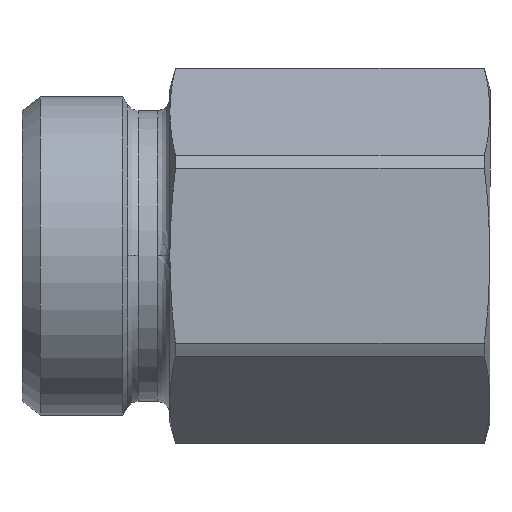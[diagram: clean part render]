
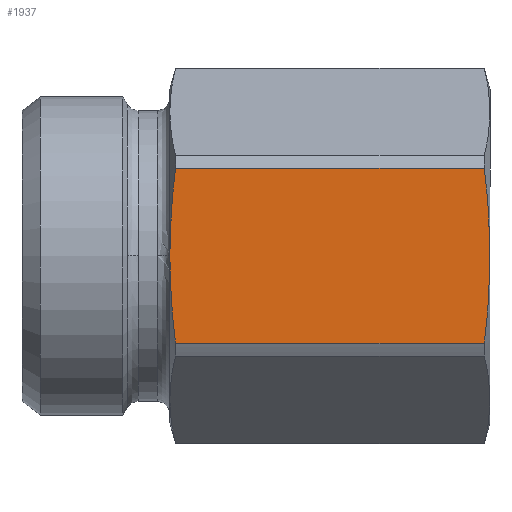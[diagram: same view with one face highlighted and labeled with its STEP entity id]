
A CAD part, top view. The second image highlights one B-rep face of the part: STEP entity #1937.
In plain terms, the highlighted planar face has unit normal (0, 0, 1) as drawn and (1, 0, 0) by its records, which use the part's own axes.
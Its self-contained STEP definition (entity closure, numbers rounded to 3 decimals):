
#1250=CARTESIAN_POINT('',(13.5,0.0,13.0));
#1251=VERTEX_POINT('',#1250);
#1315=CARTESIAN_POINT('',(13.5,-7.093,12.531));
#1316=VERTEX_POINT('',#1315);
#1334=CARTESIAN_POINT('',(13.5,-7.093,-12.531));
#1335=VERTEX_POINT('',#1334);
#1343=CARTESIAN_POINT('',(13.5,-7.093,-12.531));
#1344=DIRECTION('',(0.0,0.0,1.0));
#1345=VECTOR('',#1344,25.062);
#1346=LINE('',#1343,#1345);
#1347=EDGE_CURVE('',#1335,#1316,#1346,.T.);
#1359=CARTESIAN_POINT('',(13.5,7.093,12.531));
#1360=VERTEX_POINT('',#1359);
#1368=CARTESIAN_POINT('',(13.5,7.093,-12.531));
#1369=VERTEX_POINT('',#1368);
#1370=CARTESIAN_POINT('',(13.5,7.093,12.531));
#1371=DIRECTION('',(0.0,0.0,-1.0));
#1372=VECTOR('',#1371,25.062);
#1373=LINE('',#1370,#1372);
#1374=EDGE_CURVE('',#1360,#1369,#1373,.T.);
#1870=CARTESIAN_POINT('',(13.5,7.093,12.531));
#1871=CARTESIAN_POINT('',(13.5,3.331,13.0));
#1872=CARTESIAN_POINT('',(13.5,0.0,13.0));
#1880=(BOUNDED_CURVE()B_SPLINE_CURVE(2,(#1870,#1871,#1872),.UNSPECIFIED.,.F.,.U.)B_SPLINE_CURVE_WITH_KNOTS((3,3),(5.564,13.321),.UNSPECIFIED.)CURVE()GEOMETRIC_REPRESENTATION_ITEM()RATIONAL_B_SPLINE_CURVE((1.046,1.056,1.0))REPRESENTATION_ITEM(''));
#1881=EDGE_CURVE('',#1360,#1251,#1880,.T.);
#1886=CARTESIAN_POINT('',(13.5,-7.794,0.0));
#1887=DIRECTION('',(1.0,0.0,0.0));
#1888=DIRECTION('',(0.0,0.0,-1.0));
#1889=AXIS2_PLACEMENT_3D('',#1886,#1887,#1888);
#1890=PLANE('',#1889);
#1891=ORIENTED_EDGE('',*,*,#1374,.F.);
#1892=ORIENTED_EDGE('',*,*,#1881,.T.);
#1893=CARTESIAN_POINT('',(13.5,0.0,13.0));
#1894=CARTESIAN_POINT('',(13.5,-3.331,13.0));
#1895=CARTESIAN_POINT('',(13.5,-7.093,12.531));
#1903=(BOUNDED_CURVE()B_SPLINE_CURVE(2,(#1893,#1894,#1895),.UNSPECIFIED.,.F.,.U.)B_SPLINE_CURVE_WITH_KNOTS((3,3),(13.321,21.078),.UNSPECIFIED.)CURVE()GEOMETRIC_REPRESENTATION_ITEM()RATIONAL_B_SPLINE_CURVE((1.0,1.056,1.046))REPRESENTATION_ITEM(''));
#1904=EDGE_CURVE('',#1251,#1316,#1903,.T.);
#1905=ORIENTED_EDGE('',*,*,#1904,.T.);
#1906=ORIENTED_EDGE('',*,*,#1347,.F.);
#1907=CARTESIAN_POINT('',(13.5,0.0,-13.0));
#1908=VERTEX_POINT('',#1907);
#1909=CARTESIAN_POINT('',(13.5,-7.093,-12.531));
#1910=CARTESIAN_POINT('',(13.5,-3.331,-13.0));
#1911=CARTESIAN_POINT('',(13.5,0.0,-13.0));
#1919=(BOUNDED_CURVE()B_SPLINE_CURVE(2,(#1909,#1910,#1911),.UNSPECIFIED.,.F.,.U.)B_SPLINE_CURVE_WITH_KNOTS((3,3),(5.564,13.321),.UNSPECIFIED.)CURVE()GEOMETRIC_REPRESENTATION_ITEM()RATIONAL_B_SPLINE_CURVE((1.046,1.056,1.0))REPRESENTATION_ITEM(''));
#1920=EDGE_CURVE('',#1335,#1908,#1919,.T.);
#1921=ORIENTED_EDGE('',*,*,#1920,.T.);
#1922=CARTESIAN_POINT('',(13.5,0.0,-13.0));
#1923=CARTESIAN_POINT('',(13.5,3.331,-13.0));
#1924=CARTESIAN_POINT('',(13.5,7.093,-12.531));
#1932=(BOUNDED_CURVE()B_SPLINE_CURVE(2,(#1922,#1923,#1924),.UNSPECIFIED.,.F.,.U.)B_SPLINE_CURVE_WITH_KNOTS((3,3),(13.321,21.078),.UNSPECIFIED.)CURVE()GEOMETRIC_REPRESENTATION_ITEM()RATIONAL_B_SPLINE_CURVE((1.0,1.056,1.046))REPRESENTATION_ITEM(''));
#1933=EDGE_CURVE('',#1908,#1369,#1932,.T.);
#1934=ORIENTED_EDGE('',*,*,#1933,.T.);
#1935=EDGE_LOOP('',(#1891,#1892,#1905,#1906,#1921,#1934));
#1936=FACE_OUTER_BOUND('',#1935,.T.);
#1937=ADVANCED_FACE('',(#1936),#1890,.T.);
